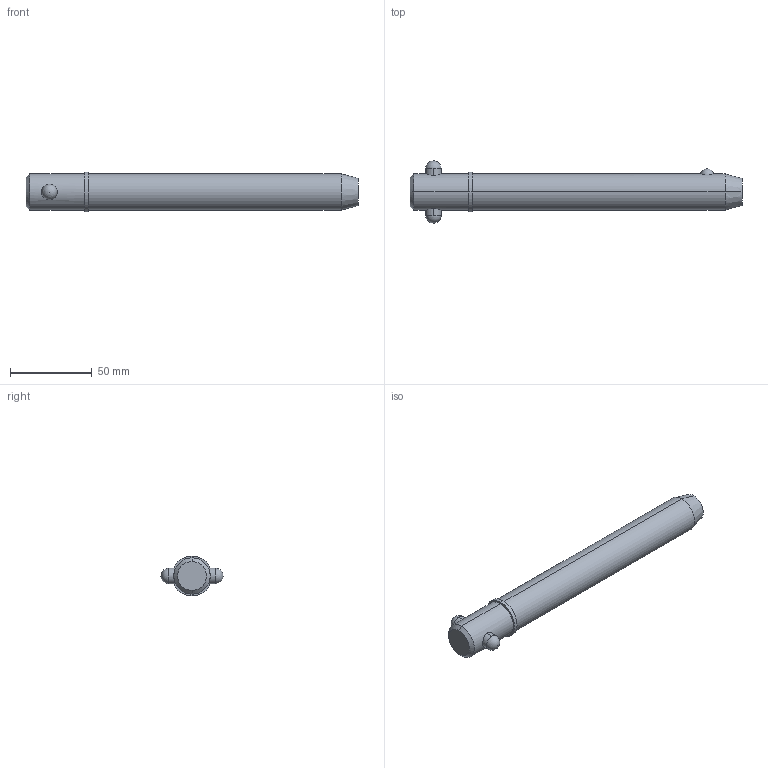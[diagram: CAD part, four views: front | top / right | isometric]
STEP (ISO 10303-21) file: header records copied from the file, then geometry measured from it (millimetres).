
FILE_DESCRIPTION (( 'STEP AP203' ), '1' );
FILE_NAME ('33018.W8855.step', '2024-11-19T17:23:01', ( '' ), ( '' ), 'SwSTEP 2.0', 'SolidWorks 2019', '' );
FILE_SCHEMA (( 'CONFIG_CONTROL_DESIGN' ));
Length unit declared in the file: millimetre
Products named in the file (3): Part2_33018.W8855; Part1_33018.W8855; 33018.W8855
Assembly tree (2 placements, depth 2):
  33018.W8855
    Part1_33018.W8855
    Part2_33018.W8855
Bounding box: 203.2 x 38.1 x 24.45 mm (x, y, z)
Volume: 79008.8 mm3; surface area: 16474.3 mm2
Topology: 2 solids, 2 shells, 22 faces, 47 edges, 30 vertices
Faces by surface type: cylinder 10, sphere 4, cone 4, plane 4
Entity records: 1057 total; most frequent: CARTESIAN_POINT 300, DIRECTION 110, ORIENTED_EDGE 82, AXIS2_PLACEMENT_3D 48, EDGE_CURVE 41, EDGE_LOOP 27, PERSON_AND_ORGANIZATION 26, VERTEX_POINT 26
